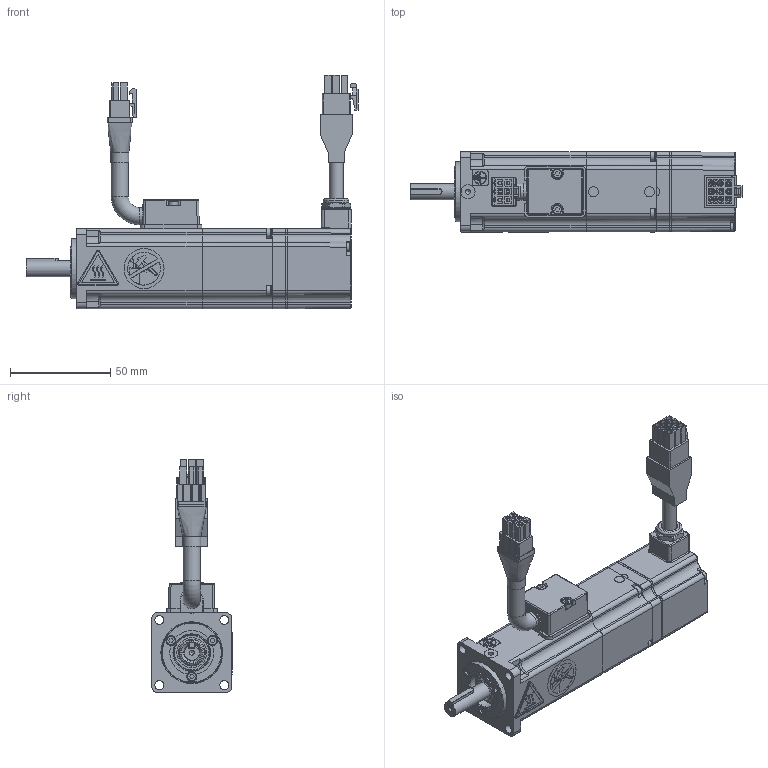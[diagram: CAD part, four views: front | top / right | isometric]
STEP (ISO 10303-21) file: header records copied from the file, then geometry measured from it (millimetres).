
FILE_DESCRIPTION( ( 'Unknown' ), '1' );
FILE_NAME( 'U:/05_Progetto TCE/010-TCE motor drawings/TCE40/Vuoti/TCE40 1B XX 3 A1 1 D0.stp', 'Unknown', ( 'Unknown' ), ( 'Unknown' ), 'PSStep 17.0.49', 'Unknown', ' ' );
FILE_SCHEMA( ( 'AUTOMOTIVE_DESIGN { 1 0 10303 214 1 1 1 1 }' ) );
Length unit declared in the file: millimetre
Products named in the file (45): 003108015152_curva; 003303000376; 005453000452_D8,5; U5190004_vuoto; 003120002501; 001799000503; 005911000598; 007102000222; 001107000616; 003303000025; 003711000103; 005603001004; cavo cablato x campana TCE - SICK; Assem1; 005123000992; 005119000350; 005911000185; 005123000910; 003103001506; 003155000300; 003251022000; 005204000002; 005113000108; 005204000004; 005204000001; 005007000082; 005911001001; 005008000104-oa0; 005008000104-oa1; 005008000134-oa2; 005008000134-oa3; 005008000134-oa4; 005009002005; 005911003639; 003155000305; 003303000377; 003911000274; 003003050013
Assembly tree (53 placements, depth 4):
  Assem1
    005123000992
    005123000992
    005119000350
    005119000350
    005911000185  x3
    005123000910
    005123000910
    003103001506
    003155000300
    003251022000
    005204000002
    005113000108
    005204000004
    005204000001
    005007000082
    005911001001  x4
    005008000104-oa0
    005008000104-oa1
    005008000134-oa2
    005008000134-oa3
    005008000134-oa4
    005009002005
    005911003639  x3
    003155000305
    003303000377
    003911000274  x2
    003003050013
    007102000222
      001107000616
      003303000025
      003711000103
      005603001004
      cavo cablato x campana TCE - SICK
      cavo cablato x campana TCE - SICK
    U5190004_vuoto
      003120002501
      001799000503
      005911000598  x2
      003108015152_curva
        003303000376
        005453000452_D8,5
        003108015152_curva
        003108015152_curva
        003108015152_curva
Bounding box: 165.9 x 40.4 x 116.8 mm (x, y, z)
Volume: 95818.4 mm3; surface area: 92805 mm2
Topology: 50 solids, 50 shells, 2110 faces, 5354 edges, 3464 vertices
Faces by surface type: plane 1342, cylinder 447, cone 109, torus 89, bspline 66, extrusion 37, sphere 20
Full cylindrical faces by diameter (mm): 1 x1, 2.013 x25, 2.459 x11, 2.5 x16, 2.6 x9, 2.7 x16, 2.8 x2, 4.2 x2, 4.5 x4, 4.7 x12, 5 x8, 5.99 x1, 6 x3, 6.5 x1, 6.8 x1, 7 x2, 7.1 x1, 7.2 x2, 7.25 x1, 7.99 x1, 8 x4, 8.1 x1, 8.5 x2, 8.51 x1, 9.11 x1, 9.5 x1, 10 x1, 10.16 x2, 10.3 x2, 10.647 x1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
Entity records: 79199 total; most frequent: CARTESIAN_POINT 17690, DIRECTION 9287, ORIENTED_EDGE 9180, EDGE_CURVE 4590, VECTOR 3227, LINE 3190, VERTEX_POINT 3172, AXIS2_PLACEMENT_3D 3030
